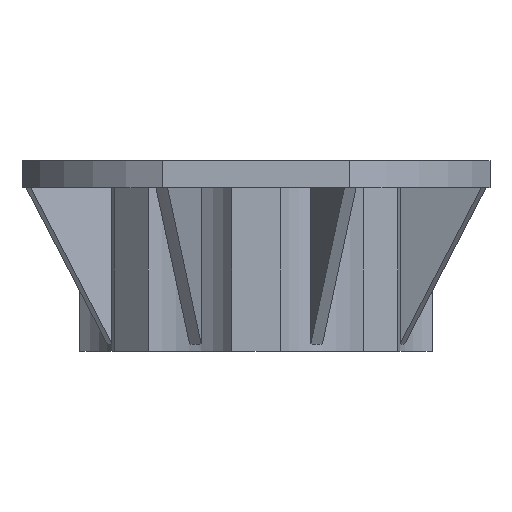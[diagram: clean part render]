
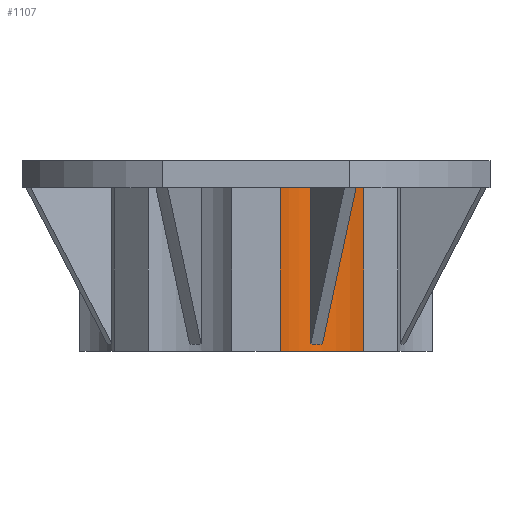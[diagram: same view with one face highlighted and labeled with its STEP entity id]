
A CAD part, left-side view. The second image highlights one B-rep face of the part: STEP entity #1107.
In plain terms, the highlighted cylindrical face has radius 45 mm (diameter 90 mm), a partial arc.
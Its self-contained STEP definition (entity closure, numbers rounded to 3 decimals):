
#1107=ADVANCED_FACE('',(#1233),#3303,.F.);
#1233=FACE_OUTER_BOUND('',#1377,.T.);
#1377=EDGE_LOOP('',(#1757,#1758,#1759,#1760,#1761,#1762,#1763,#1764));
#1757=ORIENTED_EDGE('',*,*,#2229,.F.);
#1758=ORIENTED_EDGE('',*,*,#2289,.T.);
#1759=ORIENTED_EDGE('',*,*,#2286,.T.);
#1760=ORIENTED_EDGE('',*,*,#2290,.F.);
#1761=ORIENTED_EDGE('',*,*,#2291,.F.);
#1762=ORIENTED_EDGE('',*,*,#2292,.T.);
#1763=ORIENTED_EDGE('',*,*,#2232,.F.);
#1764=ORIENTED_EDGE('',*,*,#2288,.F.);
#2229=EDGE_CURVE('',#3097,#3143,#2535,.T.);
#2232=EDGE_CURVE('',#3144,#3100,#2538,.T.);
#2286=EDGE_CURVE('',#3096,#3159,#2584,.T.);
#2288=EDGE_CURVE('',#3143,#3144,#2586,.T.);
#2289=EDGE_CURVE('',#3097,#3096,#2701,.T.);
#2290=EDGE_CURVE('',#3161,#3159,#2702,.T.);
#2291=EDGE_CURVE('',#3101,#3161,#2587,.T.);
#2292=EDGE_CURVE('',#3101,#3100,#2703,.T.);
#2535=B_SPLINE_CURVE_WITH_KNOTS('',1,(#4990,#4991),.UNSPECIFIED.,.F.,.F.,
(2,2),(0.,86.814),.UNSPECIFIED.);
#2538=B_SPLINE_CURVE_WITH_KNOTS('',1,(#4998,#4999),.UNSPECIFIED.,.F.,.F.,
(2,2),(0.,86.814),.UNSPECIFIED.);
#2584=B_SPLINE_CURVE_WITH_KNOTS('',1,(#5144,#5145),.UNSPECIFIED.,.F.,.F.,
(2,2),(-91.,0.),.UNSPECIFIED.);
#2586=B_SPLINE_CURVE_WITH_KNOTS('',3,(#5148,#5149,#5150,#5151,#5152),
 .UNSPECIFIED.,.F.,.F.,(4,1,4),(-7.087,-3.543,0.),
 .UNSPECIFIED.);
#2587=B_SPLINE_CURVE_WITH_KNOTS('',1,(#5159,#5160),.UNSPECIFIED.,.F.,.F.,
(2,2),(-91.,0.),.UNSPECIFIED.);
#2701=TRIMMED_CURVE($,#2873,(#5154),(#5155),.T.,.CARTESIAN.);
#2702=TRIMMED_CURVE($,#2874,(#5157),(#5158),.T.,.CARTESIAN.);
#2703=TRIMMED_CURVE($,#2875,(#5162),(#5163),.T.,.CARTESIAN.);
#2873=CIRCLE('',#3694,45.);
#2874=CIRCLE('',#3695,45.);
#2875=CIRCLE('',#3696,45.);
#3096=VERTEX_POINT('',#4653);
#3097=VERTEX_POINT('',#4654);
#3100=VERTEX_POINT('',#4657);
#3101=VERTEX_POINT('',#4658);
#3143=VERTEX_POINT('',#4700);
#3144=VERTEX_POINT('',#4701);
#3159=VERTEX_POINT('',#4716);
#3161=VERTEX_POINT('',#4718);
#3303=CYLINDRICAL_SURFACE('',#3576,45.);
#3576=AXIS2_PLACEMENT_3D('',#4484,#3872,$);
#3694=AXIS2_PLACEMENT_3D($,#5153,#4034,#4035);
#3695=AXIS2_PLACEMENT_3D($,#5156,#4036,#4037);
#3696=AXIS2_PLACEMENT_3D($,#5161,#4038,#4039);
#3872=DIRECTION('',(-1.,0.,0.));
#4034=DIRECTION('',(1.,0.,0.));
#4035=DIRECTION('',(0.,0.453,-0.891));
#4036=DIRECTION('',(1.,0.,0.));
#4037=DIRECTION('',(0.,-0.198,-0.98));
#4038=DIRECTION('',(1.,0.,0.));
#4039=DIRECTION('',(0.,-0.198,-0.98));
#4484=CARTESIAN_POINT('',(45.5,-50.897,122.876));
#4653=CARTESIAN_POINT('',(91.,-13.398,98.));
#4654=CARTESIAN_POINT('',(91.,-30.495,82.767));
#4657=CARTESIAN_POINT('',(91.,-36.962,80.088));
#4658=CARTESIAN_POINT('',(91.,-59.823,78.77));
#4700=CARTESIAN_POINT('',(4.186,-30.495,82.767));
#4701=CARTESIAN_POINT('',(4.186,-36.962,80.088));
#4716=CARTESIAN_POINT('',(0.,-13.398,98.));
#4718=CARTESIAN_POINT('',(0.,-59.823,78.77));
#4990=CARTESIAN_POINT('',(91.,-30.495,82.767));
#4991=CARTESIAN_POINT('',(4.186,-30.495,82.767));
#4998=CARTESIAN_POINT('',(4.186,-36.962,80.088));
#4999=CARTESIAN_POINT('',(91.,-36.962,80.088));
#5144=CARTESIAN_POINT('',(91.,-13.398,98.));
#5145=CARTESIAN_POINT('',(0.,-13.398,98.));
#5148=CARTESIAN_POINT('',(4.186,-30.495,82.767));
#5149=CARTESIAN_POINT('',(3.944,-31.528,82.241));
#5150=CARTESIAN_POINT('',(3.696,-33.637,81.267));
#5151=CARTESIAN_POINT('',(3.944,-35.86,80.447));
#5152=CARTESIAN_POINT('',(4.186,-36.962,80.088));
#5153=CARTESIAN_POINT('',(91.,-50.897,122.876));
#5154=CARTESIAN_POINT('',(91.,-30.495,82.767));
#5155=CARTESIAN_POINT('',(91.,-13.398,98.));
#5156=CARTESIAN_POINT('',(0.,-50.897,122.876));
#5157=CARTESIAN_POINT('',(0.,-59.823,78.77));
#5158=CARTESIAN_POINT('',(0.,-13.398,98.));
#5159=CARTESIAN_POINT('',(91.,-59.823,78.77));
#5160=CARTESIAN_POINT('',(0.,-59.823,78.77));
#5161=CARTESIAN_POINT('',(91.,-50.897,122.876));
#5162=CARTESIAN_POINT('',(91.,-59.823,78.77));
#5163=CARTESIAN_POINT('',(91.,-36.962,80.088));
